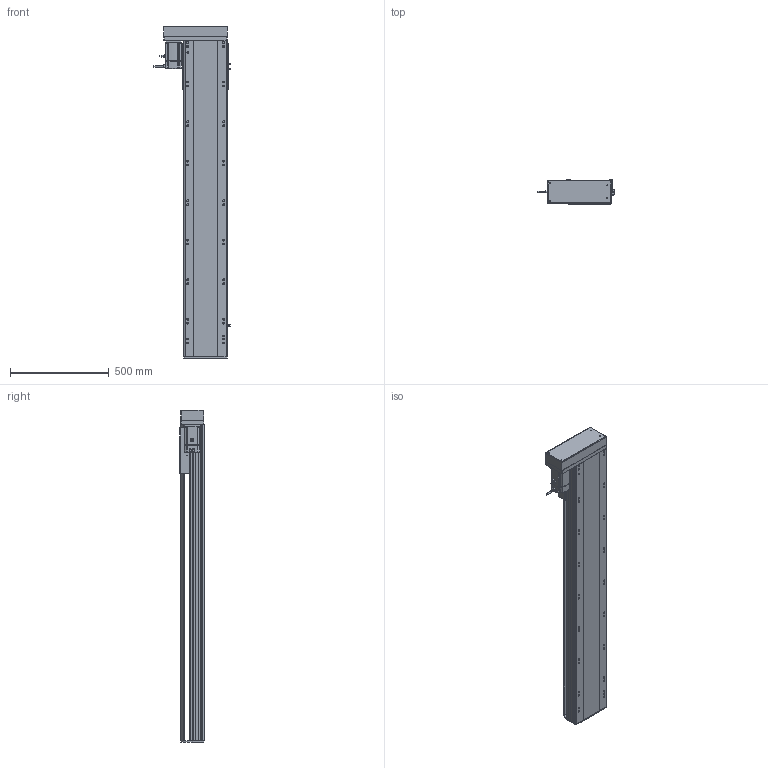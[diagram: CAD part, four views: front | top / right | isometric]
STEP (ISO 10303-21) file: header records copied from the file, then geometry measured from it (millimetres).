
FILE_DESCRIPTION (( 'STEP AP214' ), '1' );
FILE_NAME ('RTH22-XX-1300-R-M75-C4.STEP', '2025-10-25T03:14:45', ( 'Microsoft' ), ( 'Microsoft' ), 'SwSTEP 2.0', 'SolidWorks 2018', '' );
FILE_SCHEMA (( 'AUTOMOTIVE_DESIGN' ));
Length unit declared in the file: millimetre
Products named in the file (10): RTH22-XX-1300-R-M75-C4; N_RTH22-GY-013外置感应片^RTH22-XX-XX-R-M75-C4; N_RTH22-L-018裔赽^RTH22-XX-XX-R-M75-C4; N_RTH22-L-004-SFS25賑釱^RTH22-XX-XX-R-M75-C4; N_750W萇儂^RTH22-XX-XX-R-M75-C4; N_OMRON EE-SX672 传感器^RTH22-XX-XX-R-M75-C4; N_RTH22-R-008-P75萇儂啣^RTH22-XX-XX-R-M75-C4; N_RTH22-GY-001耜裔^RTH22-XX-XX-R-M75-C4; N_RTH22-L-007奻裔^RTH22-XX-XX-R-M75-C4; N_RTH22-L-011菁釱^RTH22-XX-XX-R-M75-C4
Assembly tree (11 placements, depth 2):
  RTH22-XX-1300-R-M75-C4
    N_RTH22-L-011菁釱^RTH22-XX-XX-R-M75-C4
    N_RTH22-GY-001耜裔^RTH22-XX-XX-R-M75-C4
    N_750W萇儂^RTH22-XX-XX-R-M75-C4
    N_RTH22-R-008-P75萇儂啣^RTH22-XX-XX-R-M75-C4
    N_RTH22-L-007奻裔^RTH22-XX-XX-R-M75-C4
    N_OMRON EE-SX672 传感器^RTH22-XX-XX-R-M75-C4  x3
    N_RTH22-GY-013外置感应片^RTH22-XX-XX-R-M75-C4
    N_RTH22-L-004-SFS25賑釱^RTH22-XX-XX-R-M75-C4
    N_RTH22-L-018裔赽^RTH22-XX-XX-R-M75-C4
Bounding box: 384.7 x 122 x 1679.7 mm (x, y, z)
Volume: 22427030.2 mm3; surface area: 2462818.8 mm2
Topology: 11 solids, 11 shells, 1628 faces, 4447 edges, 2863 vertices
Faces by surface type: plane 797, cylinder 486, bspline 279, cone 66
Entity records: 41283 total; most frequent: CARTESIAN_POINT 12498, ORIENTED_EDGE 5854, DIRECTION 5553, EDGE_CURVE 2927, VERTEX_POINT 1899, AXIS2_PLACEMENT_3D 1882, LINE 1789, VECTOR 1789
